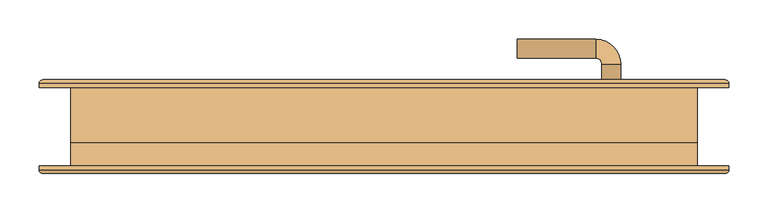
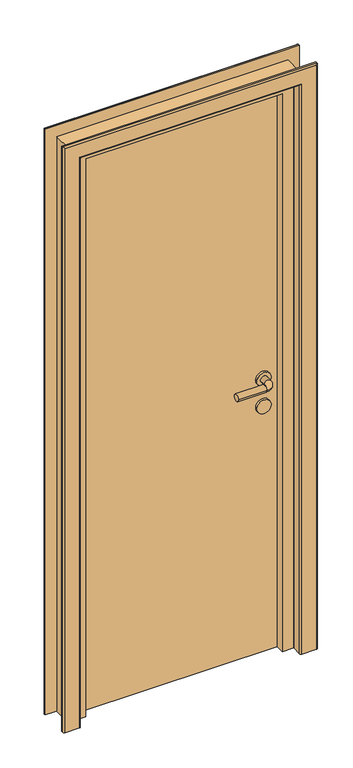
"""IFC4 building model written with IfcOpenShell, lengths in millimetres: door geometry, AC_Дверь_Однопольная_ДеревяннаяВнутренняя_ГОСТ6629-88 : 760х2080h."""

from ifc_helpers import new_model, si_unit, point, frame, frame_2d, origin, origin_with_axes, place, context, project, spatial, polyline, circle_curve, ellipse_curve, trimmed, segment, composite_curve, outline, extrude, faceted_brep, source, transform, mapped, element, save
from ifc_brep_helpers import plane_surface, cylinder_surface, revolved_surface, advanced_brep


def door_8c5e364b(model_context):
    return source(origin(), model_context, "Body", "SolidModel", [
        advanced_brep(
        [(170.0, 112.0, 1000.0), (170.0, 88.0, 1000.0), (270.0, 88.0, 1000.0), (270.0, 112.0, 1000.0), (278.0, 80.0, 1000.0), (302.0, 80.0, 1000.0), (302.0, -20.0, 1000.0), (302.0, 2.0, 1000.0), (278.0, 2.0, 1000.0), (278.0, -20.0, 1000.0), (278.0, 58.0, 1000.0), (302.0, 58.0, 1000.0), (270.0, -28.0, 1000.0), (270.0, -52.0, 1000.0), (170.0, -52.0, 1000.0), (170.0, -28.0, 1000.0), (315.0, 58.0, 1000.0), (265.0, 58.0, 1000.0), (315.0, 2.0, 1000.0), (265.0, 2.0, 1000.0)],
        [
            (0, 1, circle_curve(frame((170.0, 100.0, 1000.0), z_axis=(-1.0, 0.0, 0.0), x_axis=(0.0, -1.0, 0.0)), 12.0)),
            (1, 0, circle_curve(frame((170.0, 100.0, 1000.0), z_axis=(-1.0, 0.0, 0.0), x_axis=(0.0, -1.0, 0.0)), 12.0)),
            (1, 2),
            (2, 3, circle_curve(frame((270.0, 100.0, 1000.0), z_axis=(-1.0, 0.0, 0.0), x_axis=(0.0, -1.0, 0.0)), 12.0)),
            (3, 0),
            (3, 2, circle_curve(frame((270.0, 100.0, 1000.0), z_axis=(-1.0, 0.0, 0.0), x_axis=(0.0, -1.0, 0.0)), 12.0)),
            (2, 4, circle_curve(frame((270.0, 80.0, 1000.0), z_axis=(0.0, 0.0, -1.0), x_axis=(0.0, 1.0, 0.0)), 8.0)),
            (4, 5, circle_curve(frame((290.0, 80.0, 1000.0), z_axis=(0.0, 1.0, 0.0), x_axis=(-1.0, 0.0, 0.0)), 12.0)),
            (5, 3, circle_curve(frame((270.0, 80.0, 1000.0), z_axis=(0.0, 0.0, 1.0), x_axis=(0.0, 1.0, 0.0)), 32.0)),
            (5, 4, circle_curve(frame((290.0, 80.0, 1000.0), z_axis=(0.0, 1.0, 0.0), x_axis=(-1.0, 0.0, 0.0)), 12.0)),
            (6, 7),
            (7, 8, circle_curve(frame((290.0, 2.0, 1000.0), z_axis=(0.0, -1.0, 0.0), x_axis=(-1.0, 0.0, 0.0)), 12.0)),
            (8, 9),
            (9, 6, circle_curve(frame((290.0, -20.0, 1000.0), z_axis=(0.0, 1.0, 0.0), x_axis=(-1.0, 0.0, 0.0)), 12.0)),
            (4, 10),
            (10, 11, circle_curve(frame((290.0, 58.0, 1000.0), z_axis=(0.0, 1.0, 0.0), x_axis=(-1.0, 0.0, 0.0)), 12.0)),
            (11, 5),
            (11, 10, circle_curve(frame((290.0, 58.0, 1000.0), z_axis=(0.0, 1.0, 0.0), x_axis=(-1.0, 0.0, 0.0)), 12.0)),
            (8, 7, circle_curve(frame((290.0, 2.0, 1000.0), z_axis=(0.0, -1.0, 0.0), x_axis=(-1.0, 0.0, 0.0)), 12.0)),
            (6, 9, circle_curve(frame((290.0, -20.0, 1000.0), z_axis=(0.0, 1.0, 0.0), x_axis=(-1.0, 0.0, 0.0)), 12.0)),
            (9, 12, circle_curve(frame((270.0, -20.0, 1000.0), z_axis=(0.0, 0.0, -1.0), x_axis=(1.0, 0.0, 0.0)), 8.0)),
            (12, 13, circle_curve(frame((270.0, -40.0, 1000.0), z_axis=(1.0, 0.0, 0.0), x_axis=(0.0, 1.0, 0.0)), 12.0)),
            (13, 6, circle_curve(frame((270.0, -20.0, 1000.0), z_axis=(0.0, 0.0, 1.0), x_axis=(1.0, 0.0, 0.0)), 32.0)),
            (13, 12, circle_curve(frame((270.0, -40.0, 1000.0), z_axis=(1.0, 0.0, 0.0), x_axis=(0.0, 1.0, 0.0)), 12.0)),
            (14, 15, circle_curve(frame((170.0, -40.0, 1000.0), z_axis=(-1.0, 0.0, 0.0), x_axis=(0.0, 1.0, 0.0)), 12.0)),
            (15, 14, circle_curve(frame((170.0, -40.0, 1000.0), z_axis=(-1.0, 0.0, 0.0), x_axis=(0.0, 1.0, 0.0)), 12.0)),
            (12, 15),
            (14, 13),
            (16, 17, circle_curve(frame((290.0, 58.0, 1000.0), z_axis=(0.0, 1.0, 0.0), x_axis=(-1.0, 0.0, 0.0)), 25.0)),
            (17, 16, circle_curve(frame((290.0, 58.0, 1000.0), z_axis=(0.0, 1.0, 0.0), x_axis=(-1.0, 0.0, 0.0)), 25.0)),
            (18, 19, circle_curve(frame((290.0, 2.0, 1000.0), z_axis=(0.0, -1.0, 0.0), x_axis=(-1.0, 0.0, 0.0)), 25.0)),
            (19, 18, circle_curve(frame((290.0, 2.0, 1000.0), z_axis=(0.0, -1.0, 0.0), x_axis=(-1.0, 0.0, 0.0)), 25.0)),
            (16, 18),
            (19, 17),
        ],
        [
            plane_surface(frame((170.0, 100.0, 1000.0), z_axis=(-1.0, 0.0, 0.0), x_axis=(0.0, 0.0, 1.0))),
            cylinder_surface(frame((170.0, 100.0, 1000.0), z_axis=(-1.0, 0.0, 0.0), x_axis=(0.0, -1.0, 0.0)), 12.0),
            revolved_surface(trimmed(ellipse_curve(frame((270.0, 100.0, 1000.0), z_axis=(1.0, 0.0, 0.0), x_axis=(0.0, -1.0, 0.0)), 12.0, 12.0), [point((270.0, 112.0, 1000.0))], [point((270.0, 88.0, 1000.0))], True, "CARTESIAN"), (270.0, 80.0, 1000.0), (0.0, 0.0, 1.0)),
            revolved_surface(trimmed(ellipse_curve(frame((270.0, 100.0, 1000.0), z_axis=(1.0, 0.0, 0.0), x_axis=(0.0, -1.0, 0.0)), 12.0, 12.0), [point((270.0, 88.0, 1000.0))], [point((270.0, 112.0, 1000.0))], True, "CARTESIAN"), (270.0, 80.0, 1000.0), (0.0, 0.0, 1.0)),
            cylinder_surface(frame((290.0, 80.0, 1000.0), z_axis=(0.0, 1.0, 0.0), x_axis=(-1.0, 0.0, 0.0)), 12.0),
            revolved_surface(trimmed(ellipse_curve(frame((290.0, -20.0, 1000.0), z_axis=(0.0, -1.0, 0.0), x_axis=(-1.0, 0.0, 0.0)), 12.0, 12.0), [point((302.0, -20.0, 1000.0))], [point((278.0, -20.0, 1000.0))], True, "CARTESIAN"), (270.0, -20.0, 1000.0), (0.0, 0.0, 1.0)),
            revolved_surface(trimmed(ellipse_curve(frame((290.0, -20.0, 1000.0), z_axis=(0.0, -1.0, 0.0), x_axis=(-1.0, 0.0, 0.0)), 12.0, 12.0), [point((278.0, -20.0, 1000.0))], [point((302.0, -20.0, 1000.0))], True, "CARTESIAN"), (270.0, -20.0, 1000.0), (0.0, 0.0, 1.0)),
            plane_surface(frame((170.0, -40.0, 1000.0), z_axis=(-1.0, 0.0, 0.0), x_axis=(0.0, 0.0, 1.0))),
            cylinder_surface(frame((270.0, -40.0, 1000.0), z_axis=(1.0, 0.0, 0.0), x_axis=(0.0, 1.0, 0.0)), 12.0),
            plane_surface(frame((265.0, 58.0, 1000.0), z_axis=(0.0, 1.0, 0.0), x_axis=(0.0, 0.0, -1.0))),
            plane_surface(frame((265.0, 2.0, 1000.0), z_axis=(0.0, -1.0, 0.0), x_axis=(0.0, 0.0, 1.0))),
            cylinder_surface(frame((290.0, 58.0, 1000.0), z_axis=(0.0, -1.0, 0.0), x_axis=(-1.0, 0.0, 0.0)), 25.0),
        ],
        [
            (0, [[1, 2]]),
            (1, [[3, 4, 5, -2]]),
            (1, [[-5, 6, -3, -1]]),
            (2, [[7, 8, 9, -4]]),
            (3, [[-9, 10, -7, -6]]),
            (4, [[11, 12, 13, 14]]),
            (4, [[15, 16, 17, -8]]),
            (4, [[-17, 18, -15, -10]]),
            (4, [[-13, 19, -11, 20]]),
            (5, [[21, 22, 23, -14]]),
            (6, [[-23, 24, -21, -20]]),
            (7, [[25, 26]]),
            (8, [[27, -25, 28, -22]]),
            (8, [[-28, -26, -27, -24]]),
            (9, [[29, 30], [-18, -16]]),
            (10, [[31, 32], [-19, -12]]),
            (11, [[33, -32, 34, -29]]),
            (11, [[-34, -31, -33, -30]]),
        ],
    ),
        extrude(outline(composite_curve([segment(trimmed(circle_curve(frame_2d((900.0, 290.0)), 25.0), [point((900.0, 315.0))], [point((900.0, 265.0))], False, "CARTESIAN"), True, "CONTINUOUS"), segment(trimmed(circle_curve(frame_2d((900.0, 290.0)), 25.0), [point((900.0, 265.0))], [point((900.0, 315.0))], False, "CARTESIAN"), True, "CONTINUOUS")], self_intersect=False)), frame((0.0, 2.0, 0.0), z_axis=(0.0, 1.0, 0.0), x_axis=(0.0, 0.0, 1.0)), (0.0, 0.0, 1.0), 56.0),
        extrude(outline(polyline([(350.0, 10.0), (-350.0, 10.0), (-350.0, 50.0), (350.0, 50.0), (350.0, 10.0)])), origin_with_axes(), (0.0, 0.0, 1.0), 2050.0),
        extrude(outline(polyline([(0.0, 400.0), (2100.0, 400.0), (2100.0, -400.0), (0.0, -400.0), (0.0, -380.0), (2080.0, -380.0), (2080.0, 380.0), (0.0, 380.0), (0.0, 400.0)])), frame((0.0, -20.0, 0.0), z_axis=(0.0, 1.0, 0.0), x_axis=(0.0, 0.0, 1.0)), (0.0, 0.0, 1.0), 70.0),
        faceted_brep([(-380.0, -20.0, 0.0), (-380.0, 50.0, 0.0), (-350.0, 50.0, 0.0), (-350.0, 10.0, 0.0), (-340.0, 10.0, 0.0), (-340.0, -20.0, 0.0), (-380.0, -20.0, 2080.0), (-380.0, 50.0, 2080.0), (380.0, 50.0, 2080.0), (380.0, 50.0, 0.0), (350.0, 50.0, 0.0), (350.0, 50.0, 2050.0), (-350.0, 50.0, 2050.0), (-350.0, 10.0, 2050.0), (350.0, 10.0, 2050.0), (350.0, 10.0, 0.0), (340.0, 10.0, 0.0), (340.0, 10.0, 2040.0), (-340.0, 10.0, 2040.0), (-340.0, -20.0, 2040.0), (340.0, -20.0, 2040.0), (340.0, -20.0, 0.0), (380.0, -20.0, 0.0), (380.0, -20.0, 2080.0)], [[[0, 1, 2, 3, 4, 5]], [[1, 0, 6, 7]], [[2, 1, 7, 8, 9, 10, 11, 12]], [[3, 2, 12, 13]], [[4, 3, 13, 14, 15, 16, 17, 18]], [[5, 4, 18, 19]], [[0, 5, 19, 20, 21, 22, 23, 6]], [[7, 6, 23, 8]], [[13, 12, 11, 14]], [[19, 18, 17, 20]], [[22, 21, 16, 15, 10, 9]], [[8, 23, 22, 9]], [[14, 11, 10, 15]], [[20, 17, 16, 21]]]),
        advanced_brep(
        [(-380.0, 55.0, 0.0), (-380.0, 50.0, 0.0), (-440.0, 50.0, 0.0), (-440.0, 55.0, 0.0), (-435.0, 60.0, 0.0), (-385.0, 60.0, 0.0), (-380.0, 55.0, 2080.0), (-380.0, 50.0, 2080.0), (380.0, 50.0, 2080.0), (380.0, 50.0, 0.0), (440.0, 50.0, 0.0), (440.0, 50.0, 2140.0), (-440.0, 50.0, 2140.0), (-440.0, 55.0, 2140.0), (-435.0, 60.0, 2135.0), (435.0, 60.0, 2135.0), (435.0, 60.0, 0.0), (385.0, 60.0, 0.0), (385.0, 60.0, 2085.0), (-385.0, 60.0, 2085.0), (380.0, 55.0, 0.0), (440.0, 55.0, 0.0), (380.0, 55.0, 2080.0), (440.0, 55.0, 2140.0)],
        [
            (0, 1),
            (1, 2),
            (2, 3),
            (3, 4, circle_curve(frame((-435.0, 55.0, 0.0), z_axis=(0.0, 0.0, -1.0), x_axis=(-1.0, 0.0, 0.0)), 5.0)),
            (4, 5),
            (5, 0, circle_curve(frame((-385.0, 55.0, 0.0), z_axis=(0.0, 0.0, -1.0), x_axis=(-1.0, 0.0, 0.0)), 5.0)),
            (0, 6),
            (6, 7),
            (7, 1),
            (7, 8),
            (8, 9),
            (9, 10),
            (10, 11),
            (11, 12),
            (12, 2),
            (12, 13),
            (13, 3),
            (13, 14, ellipse_curve(frame((-435.0, 55.0, 2135.0), z_axis=(-0.7071067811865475, 0.0, -0.7071067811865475), x_axis=(0.7071067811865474, 0.0, -0.7071067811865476)), 7.0710678, 5.0)),
            (14, 4),
            (14, 15),
            (15, 16),
            (16, 17),
            (17, 18),
            (18, 19),
            (19, 5),
            (19, 6, ellipse_curve(frame((-385.0, 55.0, 2085.0), z_axis=(-0.7071067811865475, 0.0, -0.7071067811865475), x_axis=(0.7071067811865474, 0.0, -0.7071067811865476)), 7.0710678, 5.0)),
            (9, 20),
            (20, 17, circle_curve(frame((385.0, 55.0, 0.0), z_axis=(0.0, 0.0, -1.0), x_axis=(1.0, 0.0, 0.0)), 5.0)),
            (16, 21, circle_curve(frame((435.0, 55.0, 0.0), z_axis=(0.0, 0.0, -1.0), x_axis=(1.0, 0.0, 0.0)), 5.0)),
            (21, 10),
            (8, 22),
            (22, 20),
            (22, 18, ellipse_curve(frame((385.0, 55.0, 2085.0), z_axis=(0.7071067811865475, 0.0, -0.7071067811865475), x_axis=(0.7071067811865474, 0.0, 0.7071067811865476)), 7.0710678, 5.0)),
            (15, 23, ellipse_curve(frame((435.0, 55.0, 2135.0), z_axis=(0.7071067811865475, 0.0, -0.7071067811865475), x_axis=(0.7071067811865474, 0.0, 0.7071067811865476)), 7.0710678, 5.0)),
            (23, 21),
            (23, 11),
            (23, 13),
            (22, 6),
        ],
        [
            plane_surface(frame((-400.0, 50.0, 0.0), z_axis=(0.0, 0.0, -1.0), x_axis=(0.0, 1.0, 0.0))),
            plane_surface(frame((-380.0, 55.0, 0.0), z_axis=(1.0, 0.0, 0.0), x_axis=(0.0, 0.0, 1.0))),
            plane_surface(frame((-380.0, 50.0, 0.0), z_axis=(0.0, -1.0, 0.0), x_axis=(0.0, 0.0, 1.0))),
            plane_surface(frame((-440.0, 50.0, 0.0), z_axis=(-1.0, 0.0, 0.0), x_axis=(0.0, 0.0, 1.0))),
            cylinder_surface(frame((-435.0, 55.0, 0.0), z_axis=(0.0, 0.0, -1.0), x_axis=(-1.0, 0.0, 0.0)), 5.0),
            plane_surface(frame((-435.0, 60.0, 0.0), z_axis=(0.0, 1.0, 0.0), x_axis=(0.0, 0.0, 1.0))),
            cylinder_surface(frame((-385.0, 55.0, 0.0), z_axis=(0.0, 0.0, -1.0), x_axis=(-1.0, 0.0, 0.0)), 5.0),
            plane_surface(frame((400.0, 50.0, 0.0), z_axis=(0.0, 0.0, -1.0), x_axis=(0.0, 1.0, 0.0))),
            plane_surface(frame((380.0, 55.0, 2080.0), z_axis=(-1.0, 0.0, 0.0), x_axis=(0.0, 0.0, -1.0))),
            cylinder_surface(frame((385.0, 55.0, 2100.0), z_axis=(0.0, 0.0, 1.0), x_axis=(1.0, 0.0, 0.0)), 5.0),
            cylinder_surface(frame((435.0, 55.0, 2100.0), z_axis=(0.0, 0.0, 1.0), x_axis=(1.0, 0.0, 0.0)), 5.0),
            plane_surface(frame((440.0, 50.0, 2140.0), z_axis=(1.0, 0.0, 0.0), x_axis=(0.0, 0.0, -1.0))),
            plane_surface(frame((-440.0, 50.0, 2140.0), z_axis=(0.0, 0.0, 1.0), x_axis=(1.0, 0.0, 0.0))),
            cylinder_surface(frame((-400.0, 55.0, 2135.0), z_axis=(-1.0, 0.0, 0.0), x_axis=(0.0, 0.0, 1.0)), 5.0),
            cylinder_surface(frame((-400.0, 55.0, 2085.0), z_axis=(-1.0, 0.0, 0.0), x_axis=(0.0, 0.0, 1.0)), 5.0),
            plane_surface(frame((-380.0, 55.0, 2080.0), z_axis=(0.0, 0.0, -1.0), x_axis=(1.0, 0.0, 0.0))),
        ],
        [
            (0, [[1, 2, 3, 4, 5, 6]]),
            (1, [[-1, 7, 8, 9]]),
            (2, [[-2, -9, 10, 11, 12, 13, 14, 15]]),
            (3, [[-3, -15, 16, 17]]),
            (4, [[-4, -17, 18, 19]]),
            (5, [[-5, -19, 20, 21, 22, 23, 24, 25]]),
            (6, [[-6, -25, 26, -7]]),
            (7, [[27, 28, -22, 29, 30, -12]]),
            (8, [[-27, -11, 31, 32]]),
            (9, [[-23, -28, -32, 33]]),
            (10, [[-21, 34, 35, -29]]),
            (11, [[36, -13, -30, -35]]),
            (12, [[-16, -14, -36, 37]]),
            (13, [[-20, -18, -37, -34]]),
            (14, [[-24, -33, 38, -26]]),
            (15, [[-8, -38, -31, -10]]),
        ],
    ),
        advanced_brep(
        [(-380.0, -55.0, 0.0), (-385.0, -60.0, 0.0), (-435.0, -60.0, 0.0), (-440.0, -55.0, 0.0), (-440.0, -50.0, 0.0), (-400.0, -50.0, 0.0), (-400.0, -20.0, 0.0), (-380.0, -20.0, 0.0), (-380.0, -55.0, 2080.0), (-385.0, -60.0, 2085.0), (385.0, -60.0, 2085.0), (385.0, -60.0, 0.0), (435.0, -60.0, 0.0), (435.0, -60.0, 2135.0), (-435.0, -60.0, 2135.0), (-440.0, -55.0, 2140.0), (-440.0, -50.0, 2140.0), (440.0, -50.0, 2140.0), (440.0, -50.0, 0.0), (400.0, -50.0, 0.0), (400.0, -50.0, 2100.0), (-400.0, -50.0, 2100.0), (-400.0, -20.0, 2100.0), (400.0, -20.0, 2100.0), (400.0, -20.0, 0.0), (380.0, -20.0, 0.0), (380.0, -20.0, 2080.0), (-380.0, -20.0, 2080.0), (380.0, -55.0, 2080.0), (380.0, -55.0, 0.0), (440.0, -55.0, 0.0), (440.0, -55.0, 2140.0)],
        [
            (0, 1, circle_curve(frame((-385.0, -55.0, 0.0), z_axis=(0.0, 0.0, -1.0), x_axis=(-1.0, 0.0, 0.0)), 5.0)),
            (1, 2),
            (2, 3, circle_curve(frame((-435.0, -55.0, 0.0), z_axis=(0.0, 0.0, -1.0), x_axis=(-1.0, 0.0, 0.0)), 5.0)),
            (3, 4),
            (4, 5),
            (5, 6),
            (6, 7),
            (7, 0),
            (0, 8),
            (8, 9, ellipse_curve(frame((-385.0, -55.0, 2085.0), z_axis=(-0.7071067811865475, 0.0, -0.7071067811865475), x_axis=(0.7071067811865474, 0.0, -0.7071067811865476)), 7.0710678, 5.0)),
            (9, 1),
            (9, 10),
            (10, 11),
            (11, 12),
            (12, 13),
            (13, 14),
            (14, 2),
            (14, 15, ellipse_curve(frame((-435.0, -55.0, 2135.0), z_axis=(-0.7071067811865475, 0.0, -0.7071067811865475), x_axis=(0.7071067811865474, 0.0, -0.7071067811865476)), 7.0710678, 5.0)),
            (15, 3),
            (15, 16),
            (16, 4),
            (16, 17),
            (17, 18),
            (18, 19),
            (19, 20),
            (20, 21),
            (21, 5),
            (22, 6),
            (21, 22),
            (22, 23),
            (23, 24),
            (24, 25),
            (25, 26),
            (26, 27),
            (27, 7),
            (27, 8),
            (10, 28, ellipse_curve(frame((385.0, -55.0, 2085.0), z_axis=(0.7071067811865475, 0.0, -0.7071067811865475), x_axis=(0.7071067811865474, 0.0, 0.7071067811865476)), 7.0710678, 5.0)),
            (28, 29),
            (29, 11, circle_curve(frame((385.0, -55.0, 0.0), z_axis=(0.0, 0.0, 1.0), x_axis=(1.0, 0.0, 0.0)), 5.0)),
            (29, 25),
            (24, 19),
            (18, 30),
            (30, 12, circle_curve(frame((435.0, -55.0, 0.0), z_axis=(0.0, 0.0, -1.0), x_axis=(1.0, 0.0, 0.0)), 5.0)),
            (30, 31),
            (31, 13, ellipse_curve(frame((435.0, -55.0, 2135.0), z_axis=(0.7071067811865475, 0.0, -0.7071067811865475), x_axis=(0.7071067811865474, 0.0, 0.7071067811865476)), 7.0710678, 5.0)),
            (17, 31),
            (23, 20),
            (28, 26),
            (15, 31),
            (28, 8),
        ],
        [
            plane_surface(frame((-400.0, -50.0, 0.0), z_axis=(0.0, 0.0, -1.0), x_axis=(0.0, -1.0, 0.0))),
            cylinder_surface(frame((-385.0, -55.0, 0.0), z_axis=(0.0, 0.0, -1.0), x_axis=(-1.0, 0.0, 0.0)), 5.0),
            plane_surface(frame((-385.0, -60.0, 0.0), z_axis=(0.0, -1.0, 0.0), x_axis=(0.0, 0.0, 1.0))),
            cylinder_surface(frame((-435.0, -55.0, 0.0), z_axis=(0.0, 0.0, -1.0), x_axis=(-1.0, 0.0, 0.0)), 5.0),
            plane_surface(frame((-440.0, -55.0, 0.0), z_axis=(-1.0, 0.0, 0.0), x_axis=(0.0, 0.0, 1.0))),
            plane_surface(frame((-440.0, -50.0, 0.0), z_axis=(0.0, 1.0, 0.0), x_axis=(0.0, 0.0, 1.0))),
            plane_surface(frame((-400.0, -55.0, 0.0), z_axis=(-1.0, 0.0, 0.0), x_axis=(0.0, 0.0, 1.0))),
            plane_surface(frame((-400.0, -20.0, 0.0), z_axis=(0.0, 1.0, 0.0), x_axis=(0.0, 0.0, 1.0))),
            plane_surface(frame((-380.0, -50.0, 0.0), z_axis=(1.0, 0.0, 0.0), x_axis=(0.0, 0.0, 1.0))),
            cylinder_surface(frame((385.0, -55.0, 2100.0), z_axis=(0.0, 0.0, 1.0), x_axis=(1.0, 0.0, 0.0)), 5.0),
            plane_surface(frame((400.0, -50.0, 0.0), z_axis=(0.0, 0.0, -1.0), x_axis=(0.0, -1.0, 0.0))),
            cylinder_surface(frame((435.0, -55.0, 2100.0), z_axis=(0.0, 0.0, 1.0), x_axis=(1.0, 0.0, 0.0)), 5.0),
            plane_surface(frame((440.0, -55.0, 2140.0), z_axis=(1.0, 0.0, 0.0), x_axis=(0.0, 0.0, -1.0))),
            plane_surface(frame((400.0, -55.0, 2100.0), z_axis=(1.0, 0.0, 0.0), x_axis=(0.0, 0.0, -1.0))),
            plane_surface(frame((380.0, -50.0, 2080.0), z_axis=(-1.0, 0.0, 0.0), x_axis=(0.0, 0.0, -1.0))),
            plane_surface(frame((-440.0, -55.0, 2140.0), z_axis=(0.0, 0.0, 1.0), x_axis=(1.0, 0.0, 0.0))),
            plane_surface(frame((-380.0, -50.0, 2080.0), z_axis=(0.0, 0.0, -1.0), x_axis=(1.0, 0.0, 0.0))),
            cylinder_surface(frame((-400.0, -55.0, 2085.0), z_axis=(-1.0, 0.0, 0.0), x_axis=(0.0, 0.0, 1.0)), 5.0),
            cylinder_surface(frame((-400.0, -55.0, 2135.0), z_axis=(-1.0, 0.0, 0.0), x_axis=(0.0, 0.0, 1.0)), 5.0),
            plane_surface(frame((-400.0, -55.0, 2100.0), z_axis=(0.0, 0.0, 1.0), x_axis=(1.0, 0.0, 0.0))),
        ],
        [
            (0, [[1, 2, 3, 4, 5, 6, 7, 8]]),
            (1, [[-1, 9, 10, 11]]),
            (2, [[-2, -11, 12, 13, 14, 15, 16, 17]]),
            (3, [[-3, -17, 18, 19]]),
            (4, [[-4, -19, 20, 21]]),
            (5, [[-21, 22, 23, 24, 25, 26, 27, -5]]),
            (6, [[28, -6, -27, 29]]),
            (7, [[-7, -28, 30, 31, 32, 33, 34, 35]]),
            (8, [[-8, -35, 36, -9]]),
            (9, [[-13, 37, 38, 39]]),
            (10, [[-14, -39, 40, -32, 41, -24, 42, 43]]),
            (11, [[-15, -43, 44, 45]]),
            (12, [[-23, 46, -44, -42]]),
            (13, [[-31, 47, -25, -41]]),
            (14, [[-40, -38, 48, -33]]),
            (15, [[-20, 49, -46, -22]]),
            (16, [[-36, -34, -48, 50]]),
            (17, [[-12, -10, -50, -37]]),
            (18, [[-16, -45, -49, -18]]),
            (19, [[-30, -29, -26, -47]]),
        ],
    ),
    ])


if __name__ == "__main__":
    model = new_model("IFC4")
    model_context = context("Model", 3, world=origin())
    ifc_project = project(units=[si_unit("LENGTHUNIT", "METRE", prefix="MILLI")], contexts=[model_context])
    site = spatial("IfcSite", under=ifc_project)
    building = spatial("IfcBuilding", under=site)
    placement = place(None, origin())
    door_shape = door_8c5e364b(model_context)
    element("IfcDoor", 1, ObjectType="AC_Дверь_Однопольная_ДеревяннаяВнутренняя_ГОСТ6629-88 : 760х2080h", at=placement, inside=building, context=model_context, shape_type="MappedRepresentation", body=[
        mapped(door_shape, transform((0.0, 0.0, 0.0), x_axis=(1.0, 0.0, 0.0), y_axis=(0.0, 1.0, 0.0), z_axis=(0.0, 0.0, 1.0))),
    ])
    save(model, "model.ifc")
